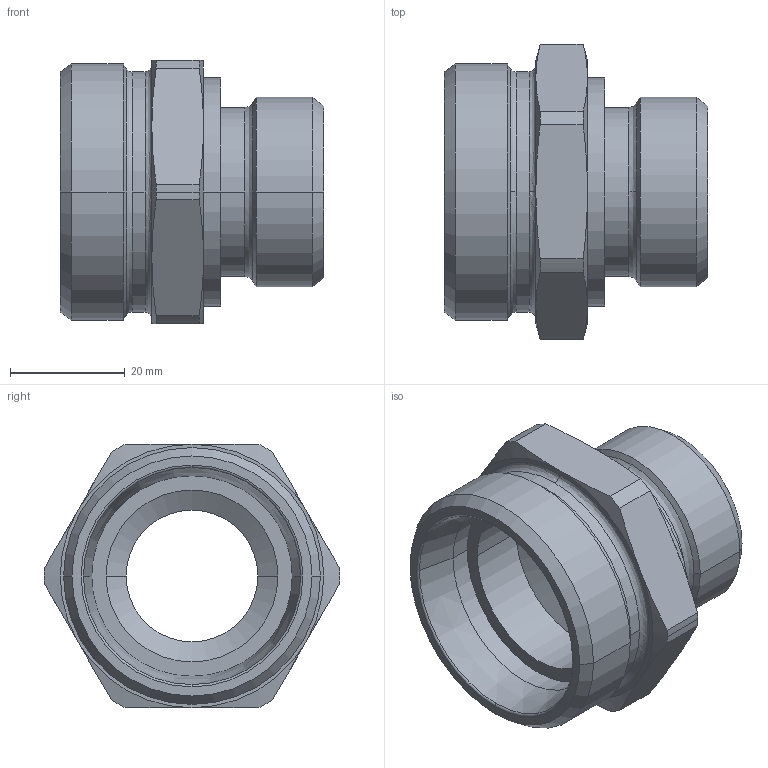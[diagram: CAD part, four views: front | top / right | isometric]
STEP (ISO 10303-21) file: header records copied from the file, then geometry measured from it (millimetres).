
FILE_DESCRIPTION((''),'2;1');
FILE_NAME('100552.stp','2007-10-30T14:22:23',(''),(''),'AutoCAD STEP 2000i','AutoCAD 2000i',', , ');
FILE_SCHEMA(('CONFIG_CONTROL_DESIGN'));
Length unit declared in the file: millimetre
Products named in the file (2): 100552.0; CHIAVE SMUSSATA#0
Assembly tree (1 placements, depth 2):
  100552.0
    CHIAVE SMUSSATA#0
Bounding box: 46 x 51.6 x 46 mm (x, y, z)
Volume: 29214.6 mm3; surface area: 12696.1 mm2
Topology: 1 solids, 1 shells, 79 faces, 193 edges, 121 vertices
Faces by surface type: cylinder 26, cone 26, plane 13, bspline 12, torus 2
Entity records: 2935 total; most frequent: CARTESIAN_POINT 971, DIRECTION 430, ORIENTED_EDGE 386, EDGE_CURVE 193, AXIS2_PLACEMENT_3D 192, CIRCLE 123, VERTEX_POINT 121, EDGE_LOOP 86
